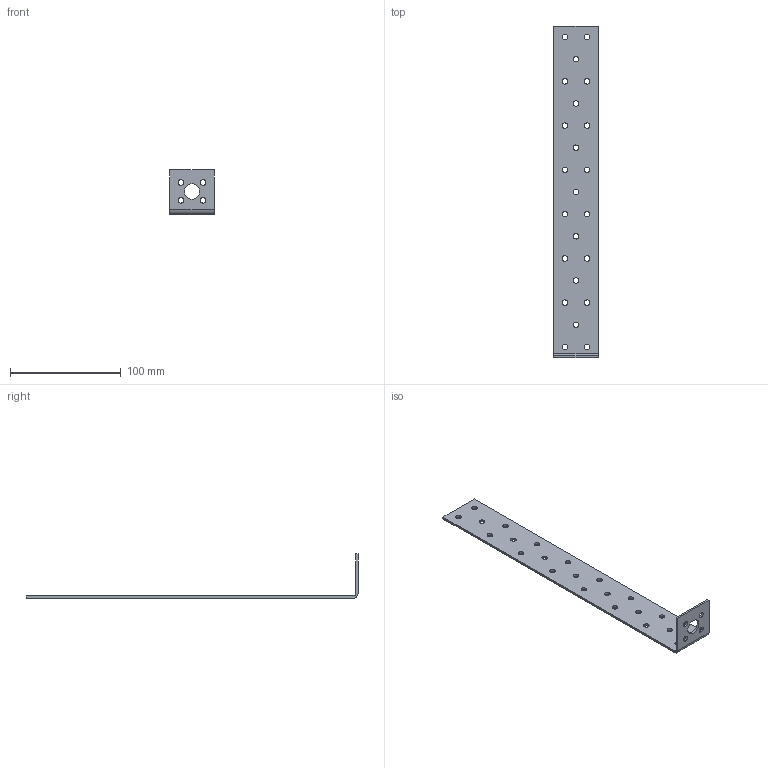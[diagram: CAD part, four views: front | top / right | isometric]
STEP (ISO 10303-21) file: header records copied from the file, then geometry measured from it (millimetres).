
FILE_DESCRIPTION (( 'STEP AP203' ), '1' );
FILE_NAME ('532.STEP', '2021-02-19T06:47:11', ( '' ), ( '' ), 'SwSTEP 2.0', 'SolidWorks 2013', '' );
FILE_SCHEMA (( 'CONFIG_CONTROL_DESIGN' ));
Length unit declared in the file: millimetre
Products named in the file (1): 532
Bounding box: 40 x 300 x 40 mm (x, y, z)
Volume: 25568.8 mm3; surface area: 28011.9 mm2
Topology: 1 solids, 1 shells, 66 faces, 192 edges, 128 vertices
Faces by surface type: cylinder 58, plane 8
Entity records: 2443 total; most frequent: DIRECTION 442, CARTESIAN_POINT 387, ORIENTED_EDGE 384, EDGE_CURVE 192, AXIS2_PLACEMENT_3D 183, VERTEX_POINT 128, EDGE_LOOP 122, CIRCLE 116
